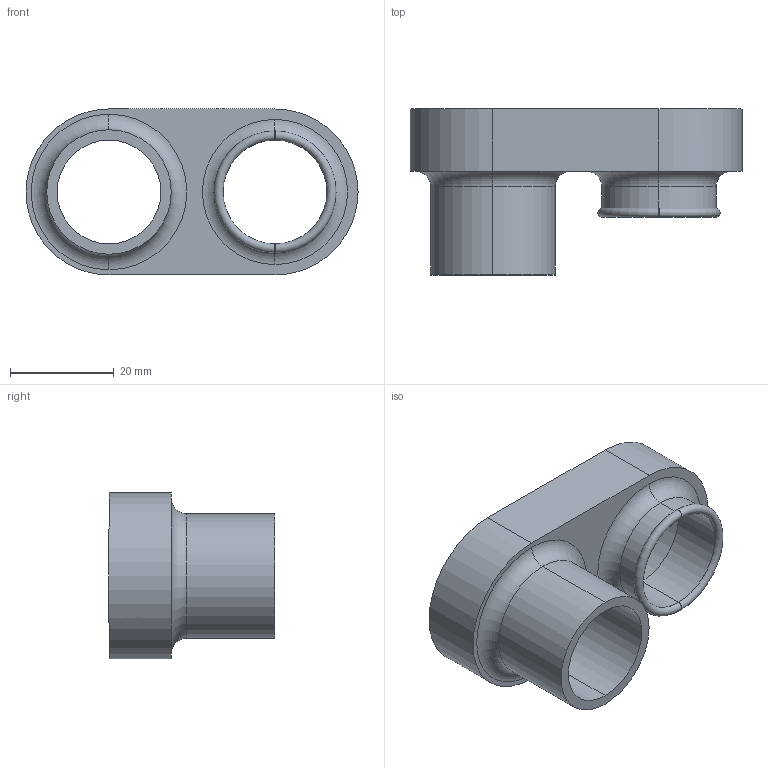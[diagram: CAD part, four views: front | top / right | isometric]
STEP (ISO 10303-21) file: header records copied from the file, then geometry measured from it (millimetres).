
FILE_DESCRIPTION(/* description */ (''),/* implementation_level */ '2;1');
FILE_NAME(/* name */ 'C:\Users\user\Documents\Inventor\Home Ventilator CPAP\BODY VALVE.stp',/* time_stamp */ '2020-04-03T13:39:22+02:00',/* author */ ('user'),/* organization */ (''),/* preprocessor_version */ 'ST-DEVELOPER v16.5',/* originating_system */ 'Autodesk Inventor 2017',/* authorisation */ '');
FILE_SCHEMA (('AUTOMOTIVE_DESIGN { 1 0 10303 214 3 1 1 }'));
Length unit declared in the file: millimetre
Products named in the file (1): BODY VALVE
Bounding box: 64 x 32 x 32 mm (x, y, z)
Surface area: 10004.8 mm2 (no closed solid volume)
Topology: 0 solids, 27 shells, 27 faces, 112 edges, 112 vertices
Faces by surface type: cylinder 12, plane 9, torus 6
Entity records: 1313 total; most frequent: CARTESIAN_POINT 252, DIRECTION 232, VERTEX_POINT 112, EDGE_CURVE 112, ORIENTED_EDGE 112, AXIS2_PLACEMENT_3D 92, CIRCLE 64, LINE 48
